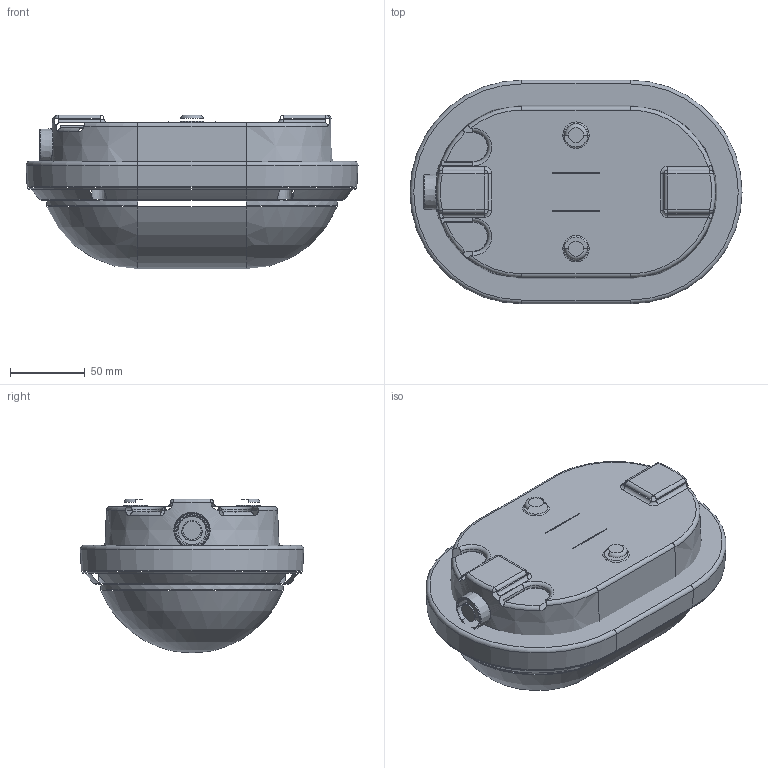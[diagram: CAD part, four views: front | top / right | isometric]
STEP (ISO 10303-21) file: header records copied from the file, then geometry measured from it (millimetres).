
FILE_DESCRIPTION((''),'2;1');
FILE_NAME('E27-FLUORESCENZA-IP66_SW0001','2025-07-30T08:33:09',('Piccioli'),(''),'CREO PARAMETRIC BY PTC INC, 2025010','CREO PARAMETRIC BY PTC INC, 2025010','');
FILE_SCHEMA(('CONFIG_CONTROL_DESIGN'));
Length unit declared in the file: millimetre
Products named in the file (1): E27-FLUORESCENZA-IP66_SW0001
Bounding box: 222.32 x 149.72 x 103 mm (x, y, z)
Surface area: 138792.6 mm2 (no closed solid volume)
Topology: 0 solids, 24 shells, 105 faces, 374 edges, 285 vertices
Faces by surface type: torus 29, cylinder 25, plane 17, cone 15, bspline 13, sphere 6
Entity records: 7257 total; most frequent: CARTESIAN_POINT 4250, DIRECTION 654, ORIENTED_EDGE 497, EDGE_CURVE 372, VERTEX_POINT 285, AXIS2_PLACEMENT_3D 281, CIRCLE 189, EDGE_LOOP 105
